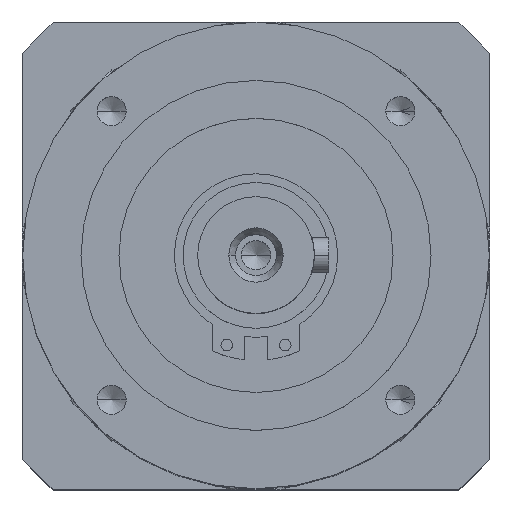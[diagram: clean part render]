
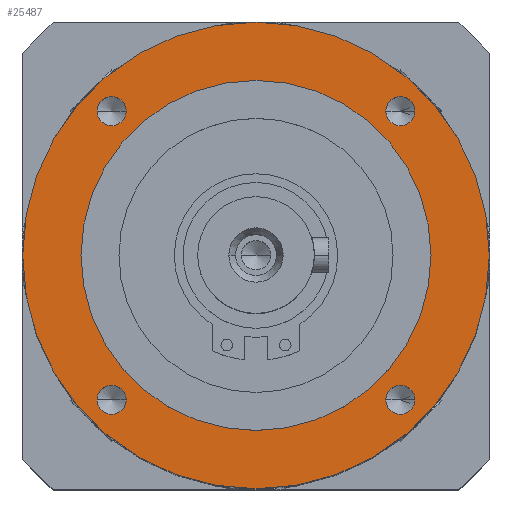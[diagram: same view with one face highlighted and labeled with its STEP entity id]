
A CAD part, top view. The second image highlights one B-rep face of the part: STEP entity #25487.
In plain terms, the highlighted planar face has unit normal (0, 0, 1).
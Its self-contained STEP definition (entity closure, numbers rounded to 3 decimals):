
#43 = CARTESIAN_POINT ( 'NONE',  ( -27.249, -24.749, 15. ) ) ;
#656 = EDGE_LOOP ( 'NONE', ( #22578, #27868 ) ) ;
#715 = EDGE_LOOP ( 'NONE', ( #20262, #23906 ) ) ;
#1019 = EDGE_CURVE ( 'NONE', #22642, #19295, #25451, .T. ) ;
#1639 = CARTESIAN_POINT ( 'NONE',  ( -24.749, 24.749, 15. ) ) ;
#1695 = CARTESIAN_POINT ( 'NONE',  ( 27.249, 24.749, 15. ) ) ;
#2246 = CARTESIAN_POINT ( 'NONE',  ( -30., 0., 15. ) ) ;
#2413 = CARTESIAN_POINT ( 'NONE',  ( 40., 0., 15. ) ) ;
#2537 = DIRECTION ( 'NONE',  ( 1., 0., 0. ) ) ;
#2808 = FACE_BOUND ( 'NONE', #4468, .T. ) ;
#3127 = EDGE_LOOP ( 'NONE', ( #28900, #29650 ) ) ;
#3390 = CARTESIAN_POINT ( 'NONE',  ( 24.749, 24.749, 15. ) ) ;
#3437 = CIRCLE ( 'NONE', #25910, 2.5 ) ;
#3546 = FACE_BOUND ( 'NONE', #26178, .T. ) ;
#3646 = CIRCLE ( 'NONE', #19601, 40. ) ;
#4026 = DIRECTION ( 'NONE',  ( 1., 0., 0. ) ) ;
#4185 = VERTEX_POINT ( 'NONE', #26815 ) ;
#4467 = CARTESIAN_POINT ( 'NONE',  ( -22.249, 24.749, 15. ) ) ;
#4468 = EDGE_LOOP ( 'NONE', ( #15155, #22325 ) ) ;
#4556 = ORIENTED_EDGE ( 'NONE', *, *, #27200, .F. ) ;
#5151 = CARTESIAN_POINT ( 'NONE',  ( 0., 0., 15. ) ) ;
#5439 = AXIS2_PLACEMENT_3D ( 'NONE', #23331, #23291, #23257 ) ;
#5511 = EDGE_CURVE ( 'NONE', #28333, #20320, #13716, .T. ) ;
#5655 = ORIENTED_EDGE ( 'NONE', *, *, #5511, .F. ) ;
#5791 = DIRECTION ( 'NONE',  ( 1., 0., 0. ) ) ;
#6047 = DIRECTION ( 'NONE',  ( 1., 0., 0. ) ) ;
#6055 = DIRECTION ( 'NONE',  ( 0., 0., 1. ) ) ;
#6087 = CARTESIAN_POINT ( 'NONE',  ( 0., 0., 15. ) ) ;
#7015 = CIRCLE ( 'NONE', #11419, 2.5 ) ;
#7381 = EDGE_CURVE ( 'NONE', #17439, #4185, #18025, .T. ) ;
#7543 = DIRECTION ( 'NONE',  ( 1., 0., 0. ) ) ;
#7630 = CARTESIAN_POINT ( 'NONE',  ( -40., 0., 15. ) ) ;
#7756 = AXIS2_PLACEMENT_3D ( 'NONE', #15297, #15292, #15265 ) ;
#7813 = EDGE_CURVE ( 'NONE', #16354, #28886, #21020, .T. ) ;
#7827 = CIRCLE ( 'NONE', #29410, 2.5 ) ;
#8528 = CIRCLE ( 'NONE', #8943, 2.5 ) ;
#8608 = DIRECTION ( 'NONE',  ( 1., 0., 0. ) ) ;
#8616 = DIRECTION ( 'NONE',  ( 0., 0., 1. ) ) ;
#8671 = CARTESIAN_POINT ( 'NONE',  ( -24.749, -24.749, 15. ) ) ;
#8791 = CARTESIAN_POINT ( 'NONE',  ( 22.249, -24.749, 15. ) ) ;
#8943 = AXIS2_PLACEMENT_3D ( 'NONE', #1639, #18393, #4026 ) ;
#8959 = VERTEX_POINT ( 'NONE', #4467 ) ;
#9165 = FACE_BOUND ( 'NONE', #656, .T. ) ;
#9409 = ORIENTED_EDGE ( 'NONE', *, *, #21397, .F. ) ;
#9556 = CARTESIAN_POINT ( 'NONE',  ( 24.749, -24.749, 15. ) ) ;
#10908 = CIRCLE ( 'NONE', #20828, 40. ) ;
#11419 = AXIS2_PLACEMENT_3D ( 'NONE', #3390, #20107, #5791 ) ;
#11618 = DIRECTION ( 'NONE',  ( 0., 0., -1. ) ) ;
#11971 = DIRECTION ( 'NONE',  ( 1., 0., 0. ) ) ;
#13428 = CARTESIAN_POINT ( 'NONE',  ( 0., 0., 15. ) ) ;
#13571 = CARTESIAN_POINT ( 'NONE',  ( 27.249, -24.749, 15. ) ) ;
#13582 = VERTEX_POINT ( 'NONE', #29425 ) ;
#13695 = AXIS2_PLACEMENT_3D ( 'NONE', #6087, #6055, #6047 ) ;
#13716 = CIRCLE ( 'NONE', #26063, 2.5 ) ;
#15077 = EDGE_CURVE ( 'NONE', #28886, #16354, #24268, .T. ) ;
#15155 = ORIENTED_EDGE ( 'NONE', *, *, #18667, .F. ) ;
#15265 = DIRECTION ( 'NONE',  ( 1., 0., 0. ) ) ;
#15292 = DIRECTION ( 'NONE',  ( 0., 0., 1. ) ) ;
#15297 = CARTESIAN_POINT ( 'NONE',  ( 24.749, -24.749, 15. ) ) ;
#15583 = FACE_OUTER_BOUND ( 'NONE', #29697, .T. ) ;
#15835 = DIRECTION ( 'NONE',  ( 1., 0., 0. ) ) ;
#16276 = DIRECTION ( 'NONE',  ( 0., 0., 1. ) ) ;
#16316 = FACE_BOUND ( 'NONE', #715, .T. ) ;
#16354 = VERTEX_POINT ( 'NONE', #21230 ) ;
#16934 = CARTESIAN_POINT ( 'NONE',  ( -24.749, -24.749, 15. ) ) ;
#17439 = VERTEX_POINT ( 'NONE', #1695 ) ;
#18025 = CIRCLE ( 'NONE', #24808, 2.5 ) ;
#18245 = AXIS2_PLACEMENT_3D ( 'NONE', #25888, #11618, #28301 ) ;
#18393 = DIRECTION ( 'NONE',  ( 0., 0., 1. ) ) ;
#18667 = EDGE_CURVE ( 'NONE', #8959, #13582, #24615, .T. ) ;
#19040 = DIRECTION ( 'NONE',  ( 1., 0., 0. ) ) ;
#19045 = DIRECTION ( 'NONE',  ( 0., 0., 1. ) ) ;
#19067 = CARTESIAN_POINT ( 'NONE',  ( -24.749, 24.749, 15. ) ) ;
#19295 = VERTEX_POINT ( 'NONE', #8791 ) ;
#19601 = AXIS2_PLACEMENT_3D ( 'NONE', #5151, #21863, #7543 ) ;
#19677 = VERTEX_POINT ( 'NONE', #2413 ) ;
#20107 = DIRECTION ( 'NONE',  ( 0., 0., 1. ) ) ;
#20262 = ORIENTED_EDGE ( 'NONE', *, *, #7813, .F. ) ;
#20320 = VERTEX_POINT ( 'NONE', #29089 ) ;
#20828 = AXIS2_PLACEMENT_3D ( 'NONE', #13428, #30075, #15835 ) ;
#21020 = CIRCLE ( 'NONE', #5439, 30. ) ;
#21230 = CARTESIAN_POINT ( 'NONE',  ( 30., 0., 15. ) ) ;
#21397 = EDGE_CURVE ( 'NONE', #20320, #28333, #7827, .T. ) ;
#21855 = FACE_BOUND ( 'NONE', #3127, .T. ) ;
#21863 = DIRECTION ( 'NONE',  ( 0., 0., -1. ) ) ;
#22325 = ORIENTED_EDGE ( 'NONE', *, *, #30124, .F. ) ;
#22536 = EDGE_CURVE ( 'NONE', #4185, #17439, #7015, .T. ) ;
#22578 = ORIENTED_EDGE ( 'NONE', *, *, #7381, .F. ) ;
#22642 = VERTEX_POINT ( 'NONE', #13571 ) ;
#22856 = VERTEX_POINT ( 'NONE', #7630 ) ;
#23257 = DIRECTION ( 'NONE',  ( 1., 0., 0. ) ) ;
#23277 = AXIS2_PLACEMENT_3D ( 'NONE', #19067, #19045, #19040 ) ;
#23291 = DIRECTION ( 'NONE',  ( 0., 0., 1. ) ) ;
#23331 = CARTESIAN_POINT ( 'NONE',  ( 0., 0., 15. ) ) ;
#23906 = ORIENTED_EDGE ( 'NONE', *, *, #15077, .F. ) ;
#24268 = CIRCLE ( 'NONE', #13695, 30. ) ;
#24615 = CIRCLE ( 'NONE', #23277, 2.5 ) ;
#24808 = AXIS2_PLACEMENT_3D ( 'NONE', #28354, #28312, #28286 ) ;
#25441 = ORIENTED_EDGE ( 'NONE', *, *, #30357, .F. ) ;
#25451 = CIRCLE ( 'NONE', #7756, 2.5 ) ;
#25487 = ADVANCED_FACE ( 'NONE', ( #15583, #16316, #3546, #21855, #9165, #2808 ), #28192, .F. ) ;
#25888 = CARTESIAN_POINT ( 'NONE',  ( 0., 52.5, 15. ) ) ;
#25910 = AXIS2_PLACEMENT_3D ( 'NONE', #9556, #26231, #11971 ) ;
#26063 = AXIS2_PLACEMENT_3D ( 'NONE', #16934, #16276, #2537 ) ;
#26178 = EDGE_LOOP ( 'NONE', ( #9409, #5655 ) ) ;
#26231 = DIRECTION ( 'NONE',  ( 0., 0., 1. ) ) ;
#26815 = CARTESIAN_POINT ( 'NONE',  ( 22.249, 24.749, 15. ) ) ;
#27200 = EDGE_CURVE ( 'NONE', #22856, #19677, #10908, .T. ) ;
#27868 = ORIENTED_EDGE ( 'NONE', *, *, #22536, .F. ) ;
#28192 = PLANE ( 'NONE',  #18245 ) ;
#28286 = DIRECTION ( 'NONE',  ( 1., 0., 0. ) ) ;
#28301 = DIRECTION ( 'NONE',  ( -1., 0., 0. ) ) ;
#28312 = DIRECTION ( 'NONE',  ( 0., 0., 1. ) ) ;
#28333 = VERTEX_POINT ( 'NONE', #43 ) ;
#28354 = CARTESIAN_POINT ( 'NONE',  ( 24.749, 24.749, 15. ) ) ;
#28886 = VERTEX_POINT ( 'NONE', #2246 ) ;
#28900 = ORIENTED_EDGE ( 'NONE', *, *, #1019, .F. ) ;
#28912 = EDGE_CURVE ( 'NONE', #19295, #22642, #3437, .T. ) ;
#29089 = CARTESIAN_POINT ( 'NONE',  ( -22.249, -24.749, 15. ) ) ;
#29410 = AXIS2_PLACEMENT_3D ( 'NONE', #8671, #8616, #8608 ) ;
#29425 = CARTESIAN_POINT ( 'NONE',  ( -27.249, 24.749, 15. ) ) ;
#29650 = ORIENTED_EDGE ( 'NONE', *, *, #28912, .F. ) ;
#29697 = EDGE_LOOP ( 'NONE', ( #25441, #4556 ) ) ;
#30075 = DIRECTION ( 'NONE',  ( 0., 0., -1. ) ) ;
#30124 = EDGE_CURVE ( 'NONE', #13582, #8959, #8528, .T. ) ;
#30357 = EDGE_CURVE ( 'NONE', #19677, #22856, #3646, .T. ) ;
